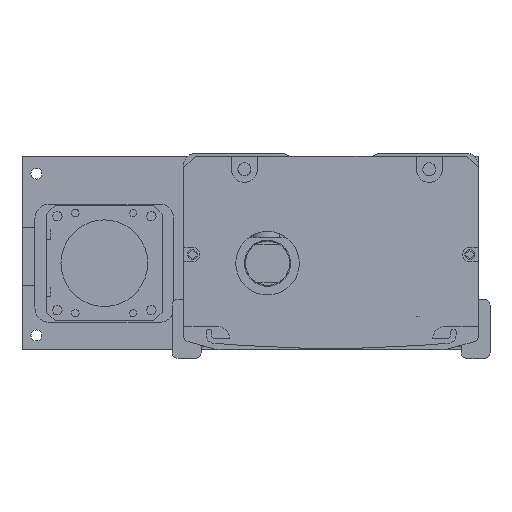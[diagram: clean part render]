
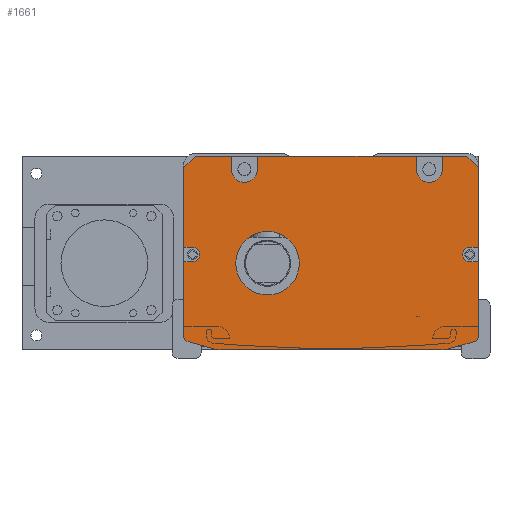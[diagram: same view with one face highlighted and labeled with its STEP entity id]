
A CAD part, front view. The second image highlights one B-rep face of the part: STEP entity #1661.
In plain terms, the highlighted planar face has unit normal (0, -1, 0).
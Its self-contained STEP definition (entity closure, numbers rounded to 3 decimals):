
#1661=ADVANCED_FACE('',(#4376,#4377),#2363,.F.);
#2363=PLANE('',#13967);
#2670=LINE('',#19574,#3477);
#2674=LINE('',#19582,#3481);
#2684=LINE('',#19603,#3491);
#2688=LINE('',#19611,#3495);
#2957=LINE('',#20604,#3764);
#2958=LINE('',#20606,#3765);
#2959=LINE('',#20608,#3766);
#2960=LINE('',#20612,#3767);
#2961=LINE('',#20614,#3768);
#2962=LINE('',#20616,#3769);
#2963=LINE('',#20620,#3770);
#2964=LINE('',#20622,#3771);
#2965=LINE('',#20624,#3772);
#2966=LINE('',#20625,#3773);
#2967=LINE('',#20629,#3774);
#2968=LINE('',#20632,#3775);
#2969=LINE('',#20636,#3776);
#2970=LINE('',#20640,#3777);
#2971=LINE('',#20643,#3778);
#2972=LINE('',#20647,#3779);
#3477=VECTOR('',#15289,1.);
#3481=VECTOR('',#15293,1.);
#3491=VECTOR('',#15305,1.);
#3495=VECTOR('',#15309,1.);
#3764=VECTOR('',#16374,1.);
#3765=VECTOR('',#16375,1.);
#3766=VECTOR('',#16376,1.);
#3767=VECTOR('',#16379,1.);
#3768=VECTOR('',#16380,1.);
#3769=VECTOR('',#16381,1.);
#3770=VECTOR('',#16384,1.);
#3771=VECTOR('',#16385,1.);
#3772=VECTOR('',#16386,1.);
#3773=VECTOR('',#16387,1.);
#3774=VECTOR('',#16390,1.);
#3775=VECTOR('',#16393,1.);
#3776=VECTOR('',#16396,1.);
#3777=VECTOR('',#16399,1.);
#3778=VECTOR('',#16402,1.);
#3779=VECTOR('',#16405,1.);
#4376=FACE_BOUND('',#5140,.T.);
#4377=FACE_BOUND('',#5141,.T.);
#5140=EDGE_LOOP('',(#7096,#7097,#7098,#7099,#7100,#7101,#7102,#7103,#7104,
#7105,#7106,#7107,#7108,#7109,#7110,#7111,#7112,#7113,#7114,#7115,#7116,
#7117,#7118,#7119,#7120,#7121,#7122,#7123));
#5141=EDGE_LOOP('',(#7124));
#7096=ORIENTED_EDGE('',*,*,#11100,.T.);
#7097=ORIENTED_EDGE('',*,*,#11584,.T.);
#7098=ORIENTED_EDGE('',*,*,#11585,.T.);
#7099=ORIENTED_EDGE('',*,*,#11586,.F.);
#7100=ORIENTED_EDGE('',*,*,#11587,.T.);
#7101=ORIENTED_EDGE('',*,*,#11588,.F.);
#7102=ORIENTED_EDGE('',*,*,#11589,.T.);
#7103=ORIENTED_EDGE('',*,*,#11590,.F.);
#7104=ORIENTED_EDGE('',*,*,#11591,.T.);
#7105=ORIENTED_EDGE('',*,*,#11592,.F.);
#7106=ORIENTED_EDGE('',*,*,#11593,.T.);
#7107=ORIENTED_EDGE('',*,*,#11594,.T.);
#7108=ORIENTED_EDGE('',*,*,#11118,.T.);
#7109=ORIENTED_EDGE('',*,*,#11595,.T.);
#7110=ORIENTED_EDGE('',*,*,#11596,.T.);
#7111=ORIENTED_EDGE('',*,*,#11597,.T.);
#7112=ORIENTED_EDGE('',*,*,#11114,.T.);
#7113=ORIENTED_EDGE('',*,*,#11598,.T.);
#7114=ORIENTED_EDGE('',*,*,#11599,.T.);
#7115=ORIENTED_EDGE('',*,*,#11600,.T.);
#7116=ORIENTED_EDGE('',*,*,#11601,.T.);
#7117=ORIENTED_EDGE('',*,*,#11602,.T.);
#7118=ORIENTED_EDGE('',*,*,#11603,.T.);
#7119=ORIENTED_EDGE('',*,*,#11604,.T.);
#7120=ORIENTED_EDGE('',*,*,#11104,.T.);
#7121=ORIENTED_EDGE('',*,*,#11605,.T.);
#7122=ORIENTED_EDGE('',*,*,#11606,.T.);
#7123=ORIENTED_EDGE('',*,*,#11607,.T.);
#7124=ORIENTED_EDGE('',*,*,#11608,.T.);
#9777=VERTEX_POINT('',#19573);
#9778=VERTEX_POINT('',#19575);
#9781=VERTEX_POINT('',#19581);
#9782=VERTEX_POINT('',#19583);
#9791=VERTEX_POINT('',#19602);
#9792=VERTEX_POINT('',#19604);
#9795=VERTEX_POINT('',#19610);
#9796=VERTEX_POINT('',#19612);
#10122=VERTEX_POINT('',#20605);
#10123=VERTEX_POINT('',#20607);
#10124=VERTEX_POINT('',#20609);
#10125=VERTEX_POINT('',#20611);
#10126=VERTEX_POINT('',#20613);
#10127=VERTEX_POINT('',#20615);
#10128=VERTEX_POINT('',#20617);
#10129=VERTEX_POINT('',#20619);
#10130=VERTEX_POINT('',#20621);
#10131=VERTEX_POINT('',#20623);
#10132=VERTEX_POINT('',#20626);
#10133=VERTEX_POINT('',#20628);
#10134=VERTEX_POINT('',#20631);
#10135=VERTEX_POINT('',#20633);
#10136=VERTEX_POINT('',#20635);
#10137=VERTEX_POINT('',#20637);
#10138=VERTEX_POINT('',#20639);
#10139=VERTEX_POINT('',#20641);
#10140=VERTEX_POINT('',#20644);
#10141=VERTEX_POINT('',#20646);
#10142=VERTEX_POINT('',#20649);
#11100=EDGE_CURVE('',#9778,#9777,#2670,.T.);
#11104=EDGE_CURVE('',#9782,#9781,#2674,.T.);
#11114=EDGE_CURVE('',#9792,#9791,#2684,.T.);
#11118=EDGE_CURVE('',#9796,#9795,#2688,.T.);
#11584=EDGE_CURVE('',#9777,#10122,#2957,.T.);
#11585=EDGE_CURVE('',#10122,#10123,#2958,.T.);
#11586=EDGE_CURVE('',#10124,#10123,#2959,.T.);
#11587=EDGE_CURVE('',#10124,#10125,#13008,.T.);
#11588=EDGE_CURVE('',#10126,#10125,#2960,.T.);
#11589=EDGE_CURVE('',#10126,#10127,#2961,.T.);
#11590=EDGE_CURVE('',#10128,#10127,#2962,.T.);
#11591=EDGE_CURVE('',#10128,#10129,#13009,.T.);
#11592=EDGE_CURVE('',#10130,#10129,#2963,.T.);
#11593=EDGE_CURVE('',#10130,#10131,#2964,.T.);
#11594=EDGE_CURVE('',#10131,#9796,#2965,.T.);
#11595=EDGE_CURVE('',#9795,#10132,#2966,.T.);
#11596=EDGE_CURVE('',#10132,#10133,#13010,.T.);
#11597=EDGE_CURVE('',#10133,#9792,#2967,.T.);
#11598=EDGE_CURVE('',#9791,#10134,#13011,.T.);
#11599=EDGE_CURVE('',#10134,#10135,#2968,.T.);
#11600=EDGE_CURVE('',#10135,#10136,#13012,.T.);
#11601=EDGE_CURVE('',#10136,#10137,#2969,.T.);
#11602=EDGE_CURVE('',#10137,#10138,#13013,.T.);
#11603=EDGE_CURVE('',#10138,#10139,#2970,.T.);
#11604=EDGE_CURVE('',#10139,#9782,#13014,.T.);
#11605=EDGE_CURVE('',#9781,#10140,#2971,.T.);
#11606=EDGE_CURVE('',#10140,#10141,#13015,.T.);
#11607=EDGE_CURVE('',#10141,#9778,#2972,.T.);
#11608=EDGE_CURVE('',#10142,#10142,#13016,.T.);
#13008=CIRCLE('',#13958,4.5);
#13009=CIRCLE('',#13959,4.5);
#13010=CIRCLE('',#13960,2.5);
#13011=CIRCLE('',#13961,2.);
#13012=CIRCLE('',#13962,10.);
#13013=CIRCLE('',#13963,10.);
#13014=CIRCLE('',#13964,2.);
#13015=CIRCLE('',#13965,2.5);
#13016=CIRCLE('',#13966,11.);
#13958=AXIS2_PLACEMENT_3D('',#20610,#16377,#16378);
#13959=AXIS2_PLACEMENT_3D('',#20618,#16382,#16383);
#13960=AXIS2_PLACEMENT_3D('',#20627,#16388,#16389);
#13961=AXIS2_PLACEMENT_3D('',#20630,#16391,#16392);
#13962=AXIS2_PLACEMENT_3D('',#20634,#16394,#16395);
#13963=AXIS2_PLACEMENT_3D('',#20638,#16397,#16398);
#13964=AXIS2_PLACEMENT_3D('',#20642,#16400,#16401);
#13965=AXIS2_PLACEMENT_3D('',#20645,#16403,#16404);
#13966=AXIS2_PLACEMENT_3D('',#20648,#16406,#16407);
#13967=AXIS2_PLACEMENT_3D('',#20650,#16408,#16409);
#15289=DIRECTION('',(0.,0.,1.));
#15293=DIRECTION('',(0.,0.,1.));
#15305=DIRECTION('',(0.,0.,-1.));
#15309=DIRECTION('',(0.,0.,-1.));
#16374=DIRECTION('',(-0.707,0.,0.707));
#16375=DIRECTION('',(-1.,0.,0.));
#16376=DIRECTION('',(0.,0.,1.));
#16377=DIRECTION('',(0.,1.,0.));
#16378=DIRECTION('',(0.,0.,1.));
#16379=DIRECTION('',(0.,0.,-1.));
#16380=DIRECTION('',(-1.,0.,0.));
#16381=DIRECTION('',(0.,0.,1.));
#16382=DIRECTION('',(0.,1.,0.));
#16383=DIRECTION('',(0.,0.,1.));
#16384=DIRECTION('',(0.,0.,-1.));
#16385=DIRECTION('',(-1.,0.,0.));
#16386=DIRECTION('',(-0.707,0.,-0.707));
#16387=DIRECTION('',(1.,0.,0.));
#16388=DIRECTION('',(0.,1.,0.));
#16389=DIRECTION('',(0.,0.,1.));
#16390=DIRECTION('',(-1.,0.,0.));
#16391=DIRECTION('',(0.,-1.,0.));
#16392=DIRECTION('',(0.,0.,1.));
#16393=DIRECTION('',(0.963,0.,-0.269));
#16394=DIRECTION('',(0.,-1.,0.));
#16395=DIRECTION('',(0.,0.,1.));
#16396=DIRECTION('',(1.,0.,0.));
#16397=DIRECTION('',(0.,-1.,0.));
#16398=DIRECTION('',(0.,0.,-1.));
#16399=DIRECTION('',(0.963,0.,0.269));
#16400=DIRECTION('',(0.,-1.,0.));
#16401=DIRECTION('',(0.,0.,-1.));
#16402=DIRECTION('',(-1.,0.,0.));
#16403=DIRECTION('',(0.,1.,0.));
#16404=DIRECTION('',(0.,0.,1.));
#16405=DIRECTION('',(1.,0.,0.));
#16406=DIRECTION('',(0.,1.,0.));
#16407=DIRECTION('',(0.,0.,1.));
#16408=DIRECTION('',(0.,1.,0.));
#16409=DIRECTION('',(1.,0.,0.));
#19573=CARTESIAN_POINT('',(47.808,-817.5,-5.));
#19574=CARTESIAN_POINT('',(47.808,-817.5,-1.));
#19575=CARTESIAN_POINT('',(47.808,-817.5,-32.5));
#19581=CARTESIAN_POINT('',(47.808,-817.5,-37.5));
#19582=CARTESIAN_POINT('',(47.808,-817.5,-1.));
#19583=CARTESIAN_POINT('',(47.808,-817.5,-63.212));
#19602=CARTESIAN_POINT('',(-54.192,-817.5,-63.212));
#19603=CARTESIAN_POINT('',(-54.192,-817.5,-62.));
#19604=CARTESIAN_POINT('',(-54.192,-817.5,-37.5));
#19610=CARTESIAN_POINT('',(-54.192,-817.5,-32.5));
#19611=CARTESIAN_POINT('',(-54.192,-817.5,-62.));
#19612=CARTESIAN_POINT('',(-54.192,-817.5,-5.));
#20604=CARTESIAN_POINT('',(43.808,-817.5,-1.));
#20605=CARTESIAN_POINT('',(43.808,-817.5,-1.));
#20606=CARTESIAN_POINT('',(-3.192,-817.5,-1.));
#20607=CARTESIAN_POINT('',(35.308,-817.5,-1.));
#20608=CARTESIAN_POINT('',(35.308,-817.5,-1.));
#20609=CARTESIAN_POINT('',(35.308,-817.5,-5.5));
#20610=CARTESIAN_POINT('',(30.808,-817.5,-5.5));
#20611=CARTESIAN_POINT('',(26.308,-817.5,-5.5));
#20612=CARTESIAN_POINT('',(26.308,-817.5,-1.));
#20613=CARTESIAN_POINT('',(26.308,-817.5,-1.));
#20614=CARTESIAN_POINT('',(-54.192,-817.5,-1.));
#20615=CARTESIAN_POINT('',(-28.692,-817.5,-1.));
#20616=CARTESIAN_POINT('',(-28.692,-817.5,-3.5));
#20617=CARTESIAN_POINT('',(-28.692,-817.5,-5.5));
#20618=CARTESIAN_POINT('',(-33.192,-817.5,-5.5));
#20619=CARTESIAN_POINT('',(-37.692,-817.5,-5.5));
#20620=CARTESIAN_POINT('',(-37.692,-817.5,-1.));
#20621=CARTESIAN_POINT('',(-37.692,-817.5,-1.));
#20622=CARTESIAN_POINT('',(-54.192,-817.5,-1.));
#20623=CARTESIAN_POINT('',(-50.192,-817.5,-1.));
#20624=CARTESIAN_POINT('',(-54.192,-817.5,-5.));
#20625=CARTESIAN_POINT('',(-3.192,-817.5,-32.5));
#20626=CARTESIAN_POINT('',(-51.192,-817.5,-32.5));
#20627=CARTESIAN_POINT('',(-51.192,-817.5,-35.));
#20628=CARTESIAN_POINT('',(-51.192,-817.5,-37.5));
#20629=CARTESIAN_POINT('',(-3.192,-817.5,-37.5));
#20630=CARTESIAN_POINT('',(-52.192,-817.5,-63.212));
#20631=CARTESIAN_POINT('',(-52.731,-817.5,-65.138));
#20632=CARTESIAN_POINT('',(-55.807,-817.5,-64.279));
#20633=CARTESIAN_POINT('',(-43.809,-817.5,-67.631));
#20634=CARTESIAN_POINT('',(-41.118,-817.5,-58.));
#20635=CARTESIAN_POINT('',(-41.118,-817.5,-68.));
#20636=CARTESIAN_POINT('',(-54.692,-817.5,-68.));
#20637=CARTESIAN_POINT('',(34.733,-817.5,-68.));
#20638=CARTESIAN_POINT('',(34.733,-817.5,-58.));
#20639=CARTESIAN_POINT('',(37.424,-817.5,-67.631));
#20640=CARTESIAN_POINT('',(49.422,-817.5,-64.279));
#20641=CARTESIAN_POINT('',(46.346,-817.5,-65.138));
#20642=CARTESIAN_POINT('',(45.808,-817.5,-63.212));
#20643=CARTESIAN_POINT('',(-3.192,-817.5,-37.5));
#20644=CARTESIAN_POINT('',(44.808,-817.5,-37.5));
#20645=CARTESIAN_POINT('',(44.808,-817.5,-35.));
#20646=CARTESIAN_POINT('',(44.808,-817.5,-32.5));
#20647=CARTESIAN_POINT('',(-3.192,-817.5,-32.5));
#20648=CARTESIAN_POINT('',(-25.192,-817.5,-38.));
#20649=CARTESIAN_POINT('',(-25.192,-817.5,-27.));
#20650=CARTESIAN_POINT('',(-3.192,-817.5,-1.));
